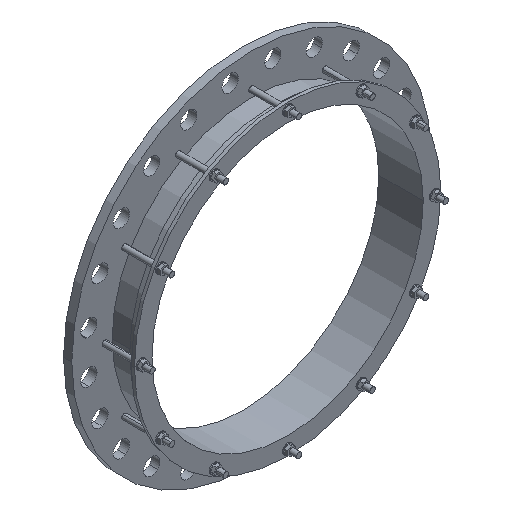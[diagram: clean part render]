
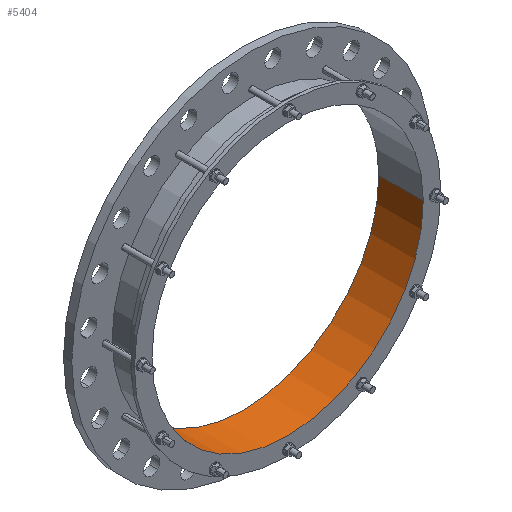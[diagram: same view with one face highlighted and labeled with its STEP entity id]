
A CAD part, isometric view. The second image highlights one B-rep face of the part: STEP entity #5404.
In plain terms, the highlighted cylindrical face has radius 409.5 mm (diameter 819 mm), a partial arc.
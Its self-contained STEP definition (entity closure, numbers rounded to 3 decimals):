
#7=CARTESIAN_POINT('',(0.,25.,0.));
#8=DIRECTION('',(0.,1.,0.));
#9=DIRECTION('',(1.,0.,0.));
#10=AXIS2_PLACEMENT_3D('',#7,#8,#9);
#1481=CARTESIAN_POINT('',(0.,-109.,0.));
#1482=DIRECTION('',(0.,1.,0.));
#1483=DIRECTION('',(1.,0.,0.));
#1484=AXIS2_PLACEMENT_3D('',#1481,#1482,#1483);
#1486=DIRECTION('',(0.,1.,0.));
#1487=VECTOR('',#1486,134.);
#1488=CARTESIAN_POINT('',(409.5,-109.,0.));
#1489=LINE('',#1488,#1487);
#1490=DIRECTION('',(0.,1.,0.));
#1491=VECTOR('',#1490,134.);
#1492=CARTESIAN_POINT('',(-409.5,-109.,0.));
#1493=LINE('',#1492,#1491);
#3676=CARTESIAN_POINT('',(409.5,-109.,0.));
#3677=CARTESIAN_POINT('',(409.5,25.,0.));
#3678=VERTEX_POINT('',#3676);
#3679=VERTEX_POINT('',#3677);
#3688=CARTESIAN_POINT('',(-409.5,-109.,0.));
#3689=CARTESIAN_POINT('',(-409.5,25.,0.));
#3690=VERTEX_POINT('',#3688);
#3691=VERTEX_POINT('',#3689);
#5391=CARTESIAN_POINT('',(0.,-115.7,0.));
#5392=DIRECTION('',(0.,1.,0.));
#5393=DIRECTION('',(-1.,0.,0.));
#5394=AXIS2_PLACEMENT_3D('',#5391,#5392,#5393);
#5395=CYLINDRICAL_SURFACE('',#5394,409.5);
#5397=ORIENTED_EDGE('',*,*,#5396,.F.);
#5398=ORIENTED_EDGE('',*,*,#5314,.T.);
#5400=ORIENTED_EDGE('',*,*,#5399,.T.);
#5401=ORIENTED_EDGE('',*,*,#4517,.F.);
#5402=EDGE_LOOP('',(#5397,#5398,#5400,#5401));
#5403=FACE_OUTER_BOUND('',#5402,.F.);
#5404=ADVANCED_FACE('',(#5403),#5395,.F.);
#11=CIRCLE('',#10,409.5);
#1485=CIRCLE('',#1484,409.5);
#4517=EDGE_CURVE('',#3679,#3691,#11,.T.);
#5314=EDGE_CURVE('',#3678,#3690,#1485,.T.);
#5396=EDGE_CURVE('',#3678,#3679,#1489,.T.);
#5399=EDGE_CURVE('',#3690,#3691,#1493,.T.);
